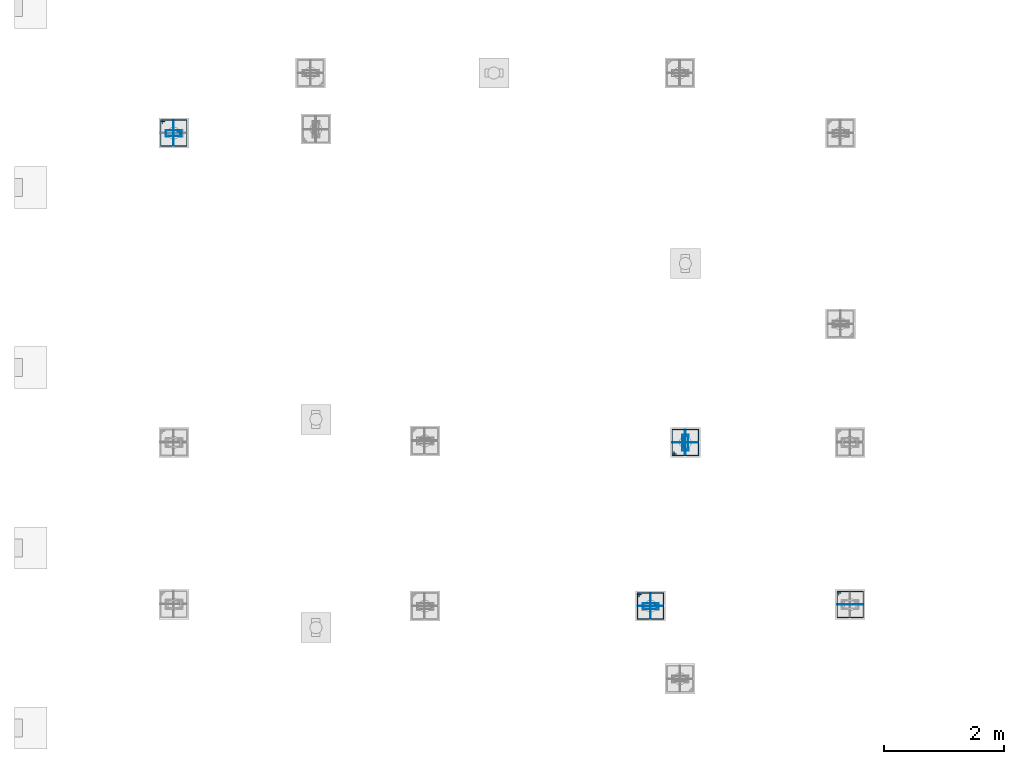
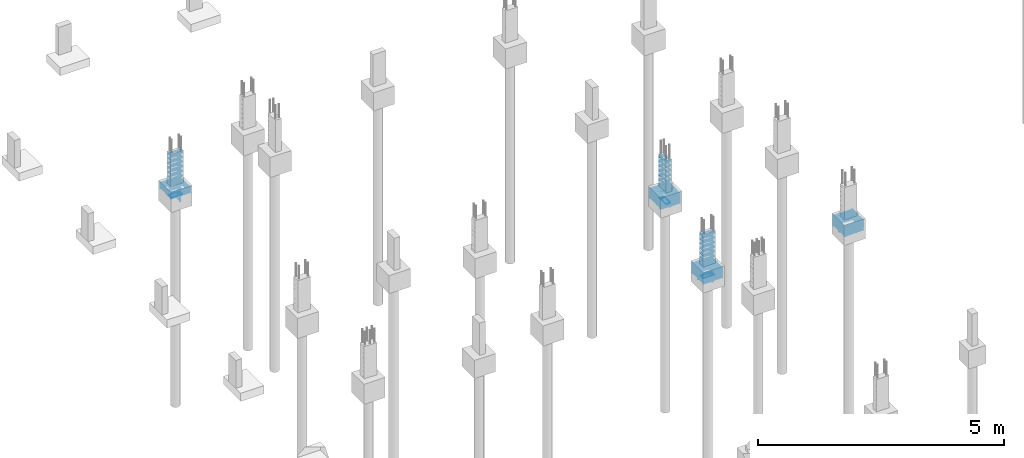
# One storey, part 103 of 119: 54 reinforcing bars.
"""IFC4 building model written with IfcOpenShell, lengths in centimetres."""

from ifc_helpers import new_model, entity, si_unit, derived_unit, frame, origin_with_axes, place, context, project, spatial, source, transform, mapped, element, save


model = new_model("IFC4")

# Units and contexts
model_context = context("Model", 3, precision=1e-05, world=origin_with_axes(), identifier="Body")
ifc_project = project(units=[si_unit("LENGTHUNIT", "METRE", prefix="CENTI"), si_unit("VOLUMEUNIT", "CUBIC_METRE"), si_unit("AREAUNIT", "SQUARE_METRE"), si_unit("POWERUNIT", "WATT"), si_unit("LUMINOUSFLUXUNIT", "LUMEN"), si_unit("ELECTRICCURRENTUNIT", "AMPERE"), si_unit("PRESSUREUNIT", "PASCAL", prefix="KILO"), si_unit("MASSUNIT", "GRAM", prefix="KILO"), si_unit("PLANEANGLEUNIT", "RADIAN"), derived_unit("VOLUMETRICFLOWRATEUNIT", [(si_unit("LENGTHUNIT", "METRE"), 3), (si_unit("TIMEUNIT", "SECOND"), -1)])], contexts=[model_context])

# Site, building, storey
site_placement = place(None, frame((-4000.0, 0.0, 0.0), z_axis=(0.0, 0.0, 1.0), x_axis=(1.0, 0.0, 0.0)))
site = spatial("IfcSite", under=ifc_project, at=site_placement, Name="PADRÃO")
building_placement = place(site_placement, frame((0.0, 0.0, -14.0)))
building = spatial("IfcBuilding", under=site, at=building_placement, Name="CRECHE PRÉ-ESCOLA TIPO 2")
storey_placement = place(building_placement, origin_with_axes())
storey = spatial("IfcBuildingStorey", under=building, at=storey_placement, Name="FUNDAÇÃO", CompositionType="ELEMENT", Elevation=-14.0)

# Reinforcing bars
shared_shape_1 = source(origin_with_axes(), model_context, "Body", "AdvancedSweptSolid", [
    entity("IfcSweptDiskSolid", entity("IfcCompositeCurve", [entity("IfcCompositeCurveSegment", "CONTINUOUS", True, entity("IfcPolyline", [entity("IfcCartesianPoint", [1374.085, 3215.445, 0.0]), entity("IfcCartesianPoint", [1374.085, 3221.705, 0.0])])), entity("IfcCompositeCurveSegment", "CONTINUOUS", True, entity("IfcPolyline", [entity("IfcCartesianPoint", [1374.085, 3221.705, 0.0]), entity("IfcCartesianPoint", [1371.565, 3221.705, 0.0])])), entity("IfcCompositeCurveSegment", "CONTINUOUS", True, entity("IfcPolyline", [entity("IfcCartesianPoint", [1371.565, 3221.705, 0.0]), entity("IfcCartesianPoint", [1371.565, 3178.335, 0.0])])), entity("IfcCompositeCurveSegment", "CONTINUOUS", True, entity("IfcPolyline", [entity("IfcCartesianPoint", [1371.565, 3178.335, 0.0]), entity("IfcCartesianPoint", [1414.935, 3178.335, 0.63])])), entity("IfcCompositeCurveSegment", "CONTINUOUS", True, entity("IfcPolyline", [entity("IfcCartesianPoint", [1414.935, 3178.335, 0.63]), entity("IfcCartesianPoint", [1414.935, 3221.705, 0.63])])), entity("IfcCompositeCurveSegment", "CONTINUOUS", True, entity("IfcPolyline", [entity("IfcCartesianPoint", [1414.935, 3221.705, 0.63]), entity("IfcCartesianPoint", [1371.565, 3221.705, 0.63])])), entity("IfcCompositeCurveSegment", "CONTINUOUS", True, entity("IfcPolyline", [entity("IfcCartesianPoint", [1371.565, 3221.705, 0.63]), entity("IfcCartesianPoint", [1371.565, 3219.185, 0.63])])), entity("IfcCompositeCurveSegment", "CONTINUOUS", True, entity("IfcPolyline", [entity("IfcCartesianPoint", [1371.565, 3219.185, 0.63]), entity("IfcCartesianPoint", [1377.825, 3219.185, 0.63])]))], False), 0.315),
])
for number, where, z_axis, x_axis, name in (
    (1, (0.0, 0.0, -86.575), (0.0, 0.0, 1.0), (1.0, 0.0, 0.0), "P51 - Blocos (estribos)"),
    (2, (0.0, 0.0, -92.225), (0.0, 0.0, 1.0), (1.0, 0.0, 0.0), "P51 - Blocos (estribos)"),
    (3, (0.0, 0.0, -97.875), (0.0, 0.0, 1.0), (1.0, 0.0, 0.0), "P51 - Blocos (estribos)"),
    (4, (0.0, 0.0, -103.525), (0.0, 0.0, 1.0), (1.0, 0.0, 0.0), "P51 - Blocos (estribos)"),
    (5, (0.0, 0.0, -109.175), (0.0, 0.0, 1.0), (1.0, 0.0, 0.0), "P51 - Blocos (estribos)"),
):
    element("IfcReinforcingBar", number, at=place(storey_placement, frame(where, z_axis=z_axis, x_axis=x_axis)), inside=storey, Name=name, BarLength=0.0, CrossSectionArea=3.1172453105e-05, NominalDiameter=0.63, PredefinedType="MAIN", context=model_context, shape_type="MappedRepresentation", body=[
        mapped(shared_shape_1, transform((0.0, 0.0, 0.0), scale=1.0)),
    ])
shared_shape_2 = source(origin_with_axes(), model_context, "Body", "AdvancedSweptSolid", [
    entity("IfcSweptDiskSolid", entity("IfcCompositeCurve", [entity("IfcCompositeCurveSegment", "CONTINUOUS", True, entity("IfcPolyline", [entity("IfcCartesianPoint", [-15.12, -12.0, 0.0]), entity("IfcCartesianPoint", [-21.12, -12.0, 0.0])])), entity("IfcCompositeCurveSegment", "CONTINUOUS", True, entity("IfcPolyline", [entity("IfcCartesianPoint", [-21.12, -12.0, 0.0]), entity("IfcCartesianPoint", [-21.12, -14.0, 0.0])])), entity("IfcCompositeCurveSegment", "CONTINUOUS", True, entity("IfcPolyline", [entity("IfcCartesianPoint", [-21.12, -14.0, 0.0]), entity("IfcCartesianPoint", [21.12, -14.0, 0.0])])), entity("IfcCompositeCurveSegment", "CONTINUOUS", True, entity("IfcPolyline", [entity("IfcCartesianPoint", [21.12, -14.0, 0.0]), entity("IfcCartesianPoint", [21.12, 14.0, 0.5])])), entity("IfcCompositeCurveSegment", "CONTINUOUS", True, entity("IfcPolyline", [entity("IfcCartesianPoint", [21.12, 14.0, 0.5]), entity("IfcCartesianPoint", [-21.12, 14.0, 0.5])])), entity("IfcCompositeCurveSegment", "CONTINUOUS", True, entity("IfcPolyline", [entity("IfcCartesianPoint", [-21.12, 14.0, 0.5]), entity("IfcCartesianPoint", [-21.12, -14.0, 0.5])])), entity("IfcCompositeCurveSegment", "CONTINUOUS", True, entity("IfcPolyline", [entity("IfcCartesianPoint", [-21.12, -14.0, 0.5]), entity("IfcCartesianPoint", [-19.12, -14.0, 0.5])])), entity("IfcCompositeCurveSegment", "CONTINUOUS", True, entity("IfcPolyline", [entity("IfcCartesianPoint", [-19.12, -14.0, 0.5]), entity("IfcCartesianPoint", [-19.12, -8.0, 0.5])]))], False), 0.25),
])
reinforcing_bar_1_placement = place(storey_placement, frame((1393.25, 3200.02, -97.75), z_axis=(0.0, 1.0, 0.0), x_axis=(1.0, 0.0, 0.0)))
element("IfcReinforcingBar", 6, at=reinforcing_bar_1_placement, inside=storey, Name="P51 - Blocos (estribos)", BarLength=0.0, CrossSectionArea=1.9634954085e-05, NominalDiameter=0.5, PredefinedType="MAIN", context=model_context, shape_type="MappedRepresentation", body=[
    mapped(shared_shape_2, transform((0.0, 0.0, 0.0), scale=1.0)),
])
shared_shape_3 = source(origin_with_axes(), model_context, "Body", "AdvancedSweptSolid", [
    entity("IfcSweptDiskSolid", entity("IfcCompositeCurve", [entity("IfcCompositeCurveSegment", "CONTINUOUS", True, entity("IfcPolyline", [entity("IfcCartesianPoint", [4.25, 21.75, 0.0]), entity("IfcCartesianPoint", [4.25, 27.75, 0.0])])), entity("IfcCompositeCurveSegment", "CONTINUOUS", True, entity("IfcPolyline", [entity("IfcCartesianPoint", [4.25, 27.75, 0.0]), entity("IfcCartesianPoint", [2.25, 27.75, 0.0])])), entity("IfcCompositeCurveSegment", "CONTINUOUS", True, entity("IfcPolyline", [entity("IfcCartesianPoint", [2.25, 27.75, 0.0]), entity("IfcCartesianPoint", [2.25, 2.25, 0.0])])), entity("IfcCompositeCurveSegment", "CONTINUOUS", True, entity("IfcPolyline", [entity("IfcCartesianPoint", [2.25, 2.25, 0.0]), entity("IfcCartesianPoint", [11.75, 2.25, 0.0])])), entity("IfcCompositeCurveSegment", "CONTINUOUS", True, entity("IfcPolyline", [entity("IfcCartesianPoint", [11.75, 2.25, 0.0]), entity("IfcCartesianPoint", [11.75, 27.75, -0.5])])), entity("IfcCompositeCurveSegment", "CONTINUOUS", True, entity("IfcPolyline", [entity("IfcCartesianPoint", [11.75, 27.75, -0.5]), entity("IfcCartesianPoint", [2.25, 27.75, -0.5])])), entity("IfcCompositeCurveSegment", "CONTINUOUS", True, entity("IfcPolyline", [entity("IfcCartesianPoint", [2.25, 27.75, -0.5]), entity("IfcCartesianPoint", [2.25, 25.75, -0.5])])), entity("IfcCompositeCurveSegment", "CONTINUOUS", True, entity("IfcPolyline", [entity("IfcCartesianPoint", [2.25, 25.75, -0.5]), entity("IfcCartesianPoint", [8.25, 25.75, -0.5])]))], False), 0.25),
])
for number, where, z_axis, x_axis, name in (
    (7, (252.0, 3992.0, -5.75), (0.0, 0.0, 1.0), (0.0, -1.0, 0.0), "P23 - Estribo"),
    (8, (252.0, 3992.0, -17.25), (0.0, 0.0, 1.0), (0.0, -1.0, 0.0), "P23 - Estribo"),
    (9, (252.0, 3992.0, -40.25), (0.0, 0.0, 1.0), (0.0, -1.0, 0.0), "P23 - Estribo"),
    (10, (252.0, 3992.0, -51.75), (0.0, 0.0, 1.0), (0.0, -1.0, 0.0), "P23 - Estribo"),
    (11, (252.0, 3992.0, -63.25), (0.0, 0.0, 1.0), (0.0, -1.0, 0.0), "P23 - Estribo"),
    (12, (252.0, 3992.0, -86.25), (0.0, 0.0, 1.0), (0.0, -1.0, 0.0), "P23 - Estribo"),
    (13, (252.0, 3992.0, -97.75), (0.0, 0.0, 1.0), (0.0, -1.0, 0.0), "P23 - Estribo"),
    (14, (252.0, 3992.0, -109.25), (0.0, 0.0, 1.0), (0.0, -1.0, 0.0), "P23 - Estribo"),
    (15, (252.0, 3992.0, -74.75), (0.0, 0.0, 1.0), (0.0, -1.0, 0.0), "P23 - Estribo"),
    (16, (252.0, 3992.0, -28.75), (0.0, 0.0, 1.0), (0.0, -1.0, 0.0), "P23 - Estribo"),
):
    element("IfcReinforcingBar", number, at=place(storey_placement, frame(where, z_axis=z_axis, x_axis=x_axis)), inside=storey, Name=name, BarLength=0.0, CrossSectionArea=1.9634954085e-05, NominalDiameter=0.5, PredefinedType="MAIN", context=model_context, shape_type="MappedRepresentation", body=[
        mapped(shared_shape_3, transform((0.0, 0.0, 0.0), scale=1.0)),
    ])
shared_shape_4 = source(origin_with_axes(), model_context, "Body", "AdvancedSweptSolid", [
    entity("IfcSweptDiskSolid", entity("IfcCompositeCurve", [entity("IfcCompositeCurveSegment", "CONTINUOUS", True, entity("IfcPolyline", [entity("IfcCartesianPoint", [247.835, 4000.425, 0.0]), entity("IfcCartesianPoint", [247.835, 4006.685, 0.0])])), entity("IfcCompositeCurveSegment", "CONTINUOUS", True, entity("IfcPolyline", [entity("IfcCartesianPoint", [247.835, 4006.685, 0.0]), entity("IfcCartesianPoint", [245.315, 4006.685, 0.0])])), entity("IfcCompositeCurveSegment", "CONTINUOUS", True, entity("IfcPolyline", [entity("IfcCartesianPoint", [245.315, 4006.685, 0.0]), entity("IfcCartesianPoint", [245.315, 3963.315, 0.0])])), entity("IfcCompositeCurveSegment", "CONTINUOUS", True, entity("IfcPolyline", [entity("IfcCartesianPoint", [245.315, 3963.315, 0.0]), entity("IfcCartesianPoint", [288.685, 3963.315, 0.63])])), entity("IfcCompositeCurveSegment", "CONTINUOUS", True, entity("IfcPolyline", [entity("IfcCartesianPoint", [288.685, 3963.315, 0.63]), entity("IfcCartesianPoint", [288.685, 4006.685, 0.63])])), entity("IfcCompositeCurveSegment", "CONTINUOUS", True, entity("IfcPolyline", [entity("IfcCartesianPoint", [288.685, 4006.685, 0.63]), entity("IfcCartesianPoint", [245.315, 4006.685, 0.63])])), entity("IfcCompositeCurveSegment", "CONTINUOUS", True, entity("IfcPolyline", [entity("IfcCartesianPoint", [245.315, 4006.685, 0.63]), entity("IfcCartesianPoint", [245.315, 4004.165, 0.63])])), entity("IfcCompositeCurveSegment", "CONTINUOUS", True, entity("IfcPolyline", [entity("IfcCartesianPoint", [245.315, 4004.165, 0.63]), entity("IfcCartesianPoint", [251.575, 4004.165, 0.63])]))], False), 0.315),
])
for number, where, z_axis, x_axis, name in (
    (17, (0.0, 0.0, -97.875), (0.0, 0.0, 1.0), (1.0, 0.0, 0.0), "P23 - Blocos (estribos)"),
    (18, (0.0, 0.0, -86.575), (0.0, 0.0, 1.0), (1.0, 0.0, 0.0), "P23 - Blocos (estribos)"),
    (19, (0.0, 0.0, -92.225), (0.0, 0.0, 1.0), (1.0, 0.0, 0.0), "P23 - Blocos (estribos)"),
):
    element("IfcReinforcingBar", number, at=place(storey_placement, frame(where, z_axis=z_axis, x_axis=x_axis)), inside=storey, Name=name, BarLength=0.0, CrossSectionArea=3.1172453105e-05, NominalDiameter=0.63, PredefinedType="MAIN", context=model_context, shape_type="MappedRepresentation", body=[
        mapped(shared_shape_4, transform((0.0, 0.0, 0.0), scale=1.0)),
    ])
shared_shape_5 = source(origin_with_axes(), model_context, "Body", "AdvancedSweptSolid", [
    entity("IfcSweptDiskSolid", entity("IfcCompositeCurve", [entity("IfcCompositeCurveSegment", "CONTINUOUS", True, entity("IfcPolyline", [entity("IfcCartesianPoint", [-15.12, -12.0, 0.0]), entity("IfcCartesianPoint", [-21.12, -12.0, 0.0])])), entity("IfcCompositeCurveSegment", "CONTINUOUS", True, entity("IfcPolyline", [entity("IfcCartesianPoint", [-21.12, -12.0, 0.0]), entity("IfcCartesianPoint", [-21.12, -14.0, 0.0])])), entity("IfcCompositeCurveSegment", "CONTINUOUS", True, entity("IfcPolyline", [entity("IfcCartesianPoint", [-21.12, -14.0, 0.0]), entity("IfcCartesianPoint", [21.12, -14.0, 0.0])])), entity("IfcCompositeCurveSegment", "CONTINUOUS", True, entity("IfcPolyline", [entity("IfcCartesianPoint", [21.12, -14.0, 0.0]), entity("IfcCartesianPoint", [21.12, 14.0, 0.5])])), entity("IfcCompositeCurveSegment", "CONTINUOUS", True, entity("IfcPolyline", [entity("IfcCartesianPoint", [21.12, 14.0, 0.5]), entity("IfcCartesianPoint", [-21.12, 14.0, 0.5])])), entity("IfcCompositeCurveSegment", "CONTINUOUS", True, entity("IfcPolyline", [entity("IfcCartesianPoint", [-21.12, 14.0, 0.5]), entity("IfcCartesianPoint", [-21.12, -14.0, 0.5])])), entity("IfcCompositeCurveSegment", "CONTINUOUS", True, entity("IfcPolyline", [entity("IfcCartesianPoint", [-21.12, -14.0, 0.5]), entity("IfcCartesianPoint", [-19.12, -14.0, 0.5])])), entity("IfcCompositeCurveSegment", "CONTINUOUS", True, entity("IfcPolyline", [entity("IfcCartesianPoint", [-19.12, -14.0, 0.5]), entity("IfcCartesianPoint", [-19.12, -8.0, 0.5])]))], False), 0.25),
])
reinforcing_bar_2_placement = place(storey_placement, frame((267.0, 3985.0, -97.75), z_axis=(-1.0, 0.0, 0.0), x_axis=(0.0, 1.0, 0.0)))
element("IfcReinforcingBar", 20, at=reinforcing_bar_2_placement, inside=storey, Name="P23 - Blocos (estribos)", BarLength=0.0, CrossSectionArea=1.9634954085e-05, NominalDiameter=0.5, PredefinedType="MAIN", context=model_context, shape_type="MappedRepresentation", body=[
    mapped(shared_shape_5, transform((0.0, 0.0, 0.0), scale=1.0)),
])
shared_shape_6 = source(origin_with_axes(), model_context, "Body", "AdvancedSweptSolid", [
    entity("IfcSweptDiskSolid", entity("IfcCompositeCurve", [entity("IfcCompositeCurveSegment", "CONTINUOUS", True, entity("IfcPolyline", [entity("IfcCartesianPoint", [4.25, 21.75, 0.0]), entity("IfcCartesianPoint", [4.25, 27.75, 0.0])])), entity("IfcCompositeCurveSegment", "CONTINUOUS", True, entity("IfcPolyline", [entity("IfcCartesianPoint", [4.25, 27.75, 0.0]), entity("IfcCartesianPoint", [2.25, 27.75, 0.0])])), entity("IfcCompositeCurveSegment", "CONTINUOUS", True, entity("IfcPolyline", [entity("IfcCartesianPoint", [2.25, 27.75, 0.0]), entity("IfcCartesianPoint", [2.25, 2.25, 0.0])])), entity("IfcCompositeCurveSegment", "CONTINUOUS", True, entity("IfcPolyline", [entity("IfcCartesianPoint", [2.25, 2.25, 0.0]), entity("IfcCartesianPoint", [11.75, 2.25, 0.0])])), entity("IfcCompositeCurveSegment", "CONTINUOUS", True, entity("IfcPolyline", [entity("IfcCartesianPoint", [11.75, 2.25, 0.0]), entity("IfcCartesianPoint", [11.75, 27.75, -0.5])])), entity("IfcCompositeCurveSegment", "CONTINUOUS", True, entity("IfcPolyline", [entity("IfcCartesianPoint", [11.75, 27.75, -0.5]), entity("IfcCartesianPoint", [2.25, 27.75, -0.5])])), entity("IfcCompositeCurveSegment", "CONTINUOUS", True, entity("IfcPolyline", [entity("IfcCartesianPoint", [2.25, 27.75, -0.5]), entity("IfcCartesianPoint", [2.25, 25.75, -0.5])])), entity("IfcCompositeCurveSegment", "CONTINUOUS", True, entity("IfcPolyline", [entity("IfcCartesianPoint", [2.25, 25.75, -0.5]), entity("IfcCartesianPoint", [8.25, 25.75, -0.5])]))], False), 0.25),
])
for number, where, z_axis, x_axis, name in (
    (21, (1046.0, 3204.49, -40.25), (0.0, 0.0, 1.0), (0.0, -1.0, 0.0), "P50 - Estribo"),
    (22, (1046.0, 3204.49, -51.75), (0.0, 0.0, 1.0), (0.0, -1.0, 0.0), "P50 - Estribo"),
    (23, (1046.0, 3204.49, -109.25), (0.0, 0.0, 1.0), (0.0, -1.0, 0.0), "P50 - Estribo"),
    (24, (1046.0, 3204.49, -86.25), (0.0, 0.0, 1.0), (0.0, -1.0, 0.0), "P50 - Estribo"),
    (25, (1046.0, 3204.49, -17.25), (0.0, 0.0, 1.0), (0.0, -1.0, 0.0), "P50 - Estribo"),
    (26, (1046.0, 3204.49, -5.75), (0.0, 0.0, 1.0), (0.0, -1.0, 0.0), "P50 - Estribo"),
    (27, (1046.0, 3204.49, -63.25), (0.0, 0.0, 1.0), (0.0, -1.0, 0.0), "P50 - Estribo"),
    (28, (1046.0, 3204.49, -28.75), (0.0, 0.0, 1.0), (0.0, -1.0, 0.0), "P50 - Estribo"),
    (29, (1046.0, 3204.49, -97.75), (0.0, 0.0, 1.0), (0.0, -1.0, 0.0), "P50 - Estribo"),
    (30, (1046.0, 3204.49, -74.75), (0.0, 0.0, 1.0), (0.0, -1.0, 0.0), "P50 - Estribo"),
):
    element("IfcReinforcingBar", number, at=place(storey_placement, frame(where, z_axis=z_axis, x_axis=x_axis)), inside=storey, Name=name, BarLength=0.0, CrossSectionArea=1.9634954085e-05, NominalDiameter=0.5, PredefinedType="MAIN", context=model_context, shape_type="MappedRepresentation", body=[
        mapped(shared_shape_6, transform((0.0, 0.0, 0.0), scale=1.0)),
    ])
shared_shape_7 = source(origin_with_axes(), model_context, "Body", "AdvancedSweptSolid", [
    entity("IfcSweptDiskSolid", entity("IfcCompositeCurve", [entity("IfcCompositeCurveSegment", "CONTINUOUS", True, entity("IfcPolyline", [entity("IfcCartesianPoint", [1041.835, 3212.915, 0.0]), entity("IfcCartesianPoint", [1041.835, 3219.175, 0.0])])), entity("IfcCompositeCurveSegment", "CONTINUOUS", True, entity("IfcPolyline", [entity("IfcCartesianPoint", [1041.835, 3219.175, 0.0]), entity("IfcCartesianPoint", [1039.315, 3219.175, 0.0])])), entity("IfcCompositeCurveSegment", "CONTINUOUS", True, entity("IfcPolyline", [entity("IfcCartesianPoint", [1039.315, 3219.175, 0.0]), entity("IfcCartesianPoint", [1039.315, 3175.805, 0.0])])), entity("IfcCompositeCurveSegment", "CONTINUOUS", True, entity("IfcPolyline", [entity("IfcCartesianPoint", [1039.315, 3175.805, 0.0]), entity("IfcCartesianPoint", [1082.685, 3175.805, 0.63])])), entity("IfcCompositeCurveSegment", "CONTINUOUS", True, entity("IfcPolyline", [entity("IfcCartesianPoint", [1082.685, 3175.805, 0.63]), entity("IfcCartesianPoint", [1082.685, 3219.175, 0.63])])), entity("IfcCompositeCurveSegment", "CONTINUOUS", True, entity("IfcPolyline", [entity("IfcCartesianPoint", [1082.685, 3219.175, 0.63]), entity("IfcCartesianPoint", [1039.315, 3219.175, 0.63])])), entity("IfcCompositeCurveSegment", "CONTINUOUS", True, entity("IfcPolyline", [entity("IfcCartesianPoint", [1039.315, 3219.175, 0.63]), entity("IfcCartesianPoint", [1039.315, 3216.655, 0.63])])), entity("IfcCompositeCurveSegment", "CONTINUOUS", True, entity("IfcPolyline", [entity("IfcCartesianPoint", [1039.315, 3216.655, 0.63]), entity("IfcCartesianPoint", [1045.575, 3216.655, 0.63])]))], False), 0.315),
])
for number, where, z_axis, x_axis, name in (
    (31, (0.0, 0.0, -86.575), (0.0, 0.0, 1.0), (1.0, 0.0, 0.0), "P50 - Blocos (estribos)"),
    (32, (0.0, 0.0, -92.225), (0.0, 0.0, 1.0), (1.0, 0.0, 0.0), "P50 - Blocos (estribos)"),
    (33, (0.0, 0.0, -109.175), (0.0, 0.0, 1.0), (1.0, 0.0, 0.0), "P50 - Blocos (estribos)"),
    (34, (0.0, 0.0, -103.525), (0.0, 0.0, 1.0), (1.0, 0.0, 0.0), "P50 - Blocos (estribos)"),
    (35, (0.0, 0.0, -97.875), (0.0, 0.0, 1.0), (1.0, 0.0, 0.0), "P50 - Blocos (estribos)"),
):
    element("IfcReinforcingBar", number, at=place(storey_placement, frame(where, z_axis=z_axis, x_axis=x_axis)), inside=storey, Name=name, BarLength=0.0, CrossSectionArea=3.1172453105e-05, NominalDiameter=0.63, PredefinedType="MAIN", context=model_context, shape_type="MappedRepresentation", body=[
        mapped(shared_shape_7, transform((0.0, 0.0, 0.0), scale=1.0)),
    ])
shared_shape_8 = source(origin_with_axes(), model_context, "Body", "AdvancedSweptSolid", [
    entity("IfcSweptDiskSolid", entity("IfcCompositeCurve", [entity("IfcCompositeCurveSegment", "CONTINUOUS", True, entity("IfcPolyline", [entity("IfcCartesianPoint", [-15.12, -12.0, 0.0]), entity("IfcCartesianPoint", [-21.12, -12.0, 0.0])])), entity("IfcCompositeCurveSegment", "CONTINUOUS", True, entity("IfcPolyline", [entity("IfcCartesianPoint", [-21.12, -12.0, 0.0]), entity("IfcCartesianPoint", [-21.12, -14.0, 0.0])])), entity("IfcCompositeCurveSegment", "CONTINUOUS", True, entity("IfcPolyline", [entity("IfcCartesianPoint", [-21.12, -14.0, 0.0]), entity("IfcCartesianPoint", [21.12, -14.0, 0.0])])), entity("IfcCompositeCurveSegment", "CONTINUOUS", True, entity("IfcPolyline", [entity("IfcCartesianPoint", [21.12, -14.0, 0.0]), entity("IfcCartesianPoint", [21.12, 14.0, 0.5])])), entity("IfcCompositeCurveSegment", "CONTINUOUS", True, entity("IfcPolyline", [entity("IfcCartesianPoint", [21.12, 14.0, 0.5]), entity("IfcCartesianPoint", [-21.12, 14.0, 0.5])])), entity("IfcCompositeCurveSegment", "CONTINUOUS", True, entity("IfcPolyline", [entity("IfcCartesianPoint", [-21.12, 14.0, 0.5]), entity("IfcCartesianPoint", [-21.12, -14.0, 0.5])])), entity("IfcCompositeCurveSegment", "CONTINUOUS", True, entity("IfcPolyline", [entity("IfcCartesianPoint", [-21.12, -14.0, 0.5]), entity("IfcCartesianPoint", [-19.12, -14.0, 0.5])])), entity("IfcCompositeCurveSegment", "CONTINUOUS", True, entity("IfcPolyline", [entity("IfcCartesianPoint", [-19.12, -14.0, 0.5]), entity("IfcCartesianPoint", [-19.12, -8.0, 0.5])]))], False), 0.25),
])
reinforcing_bar_3_placement = place(storey_placement, frame((1061.0, 3197.49, -97.75), z_axis=(0.0, 1.0, 0.0), x_axis=(1.0, 0.0, 0.0)))
element("IfcReinforcingBar", 36, at=reinforcing_bar_3_placement, inside=storey, Name="P50 - Blocos (estribos)", BarLength=0.0, CrossSectionArea=1.9634954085e-05, NominalDiameter=0.5, PredefinedType="MAIN", context=model_context, shape_type="MappedRepresentation", body=[
    mapped(shared_shape_8, transform((0.0, 0.0, 0.0), scale=1.0)),
])
shared_shape_9 = source(origin_with_axes(), model_context, "Body", "AdvancedSweptSolid", [
    entity("IfcSweptDiskSolid", entity("IfcCompositeCurve", [entity("IfcCompositeCurveSegment", "CONTINUOUS", True, entity("IfcPolyline", [entity("IfcCartesianPoint", [-15.12, -12.0, 0.0]), entity("IfcCartesianPoint", [-21.12, -12.0, 0.0])])), entity("IfcCompositeCurveSegment", "CONTINUOUS", True, entity("IfcPolyline", [entity("IfcCartesianPoint", [-21.12, -12.0, 0.0]), entity("IfcCartesianPoint", [-21.12, -14.0, 0.0])])), entity("IfcCompositeCurveSegment", "CONTINUOUS", True, entity("IfcPolyline", [entity("IfcCartesianPoint", [-21.12, -14.0, 0.0]), entity("IfcCartesianPoint", [21.12, -14.0, 0.0])])), entity("IfcCompositeCurveSegment", "CONTINUOUS", True, entity("IfcPolyline", [entity("IfcCartesianPoint", [21.12, -14.0, 0.0]), entity("IfcCartesianPoint", [21.12, 14.0, 0.5])])), entity("IfcCompositeCurveSegment", "CONTINUOUS", True, entity("IfcPolyline", [entity("IfcCartesianPoint", [21.12, 14.0, 0.5]), entity("IfcCartesianPoint", [-21.12, 14.0, 0.5])])), entity("IfcCompositeCurveSegment", "CONTINUOUS", True, entity("IfcPolyline", [entity("IfcCartesianPoint", [-21.12, 14.0, 0.5]), entity("IfcCartesianPoint", [-21.12, -14.0, 0.5])])), entity("IfcCompositeCurveSegment", "CONTINUOUS", True, entity("IfcPolyline", [entity("IfcCartesianPoint", [-21.12, -14.0, 0.5]), entity("IfcCartesianPoint", [-19.12, -14.0, 0.5])])), entity("IfcCompositeCurveSegment", "CONTINUOUS", True, entity("IfcPolyline", [entity("IfcCartesianPoint", [-19.12, -14.0, 0.5]), entity("IfcCartesianPoint", [-19.12, -8.0, 0.5])]))], False), 0.25),
])
reinforcing_bar_4_placement = place(storey_placement, frame((1061.0, 3197.49, -97.75), z_axis=(-1.0, 0.0, 0.0), x_axis=(0.0, 1.0, 0.0)))
element("IfcReinforcingBar", 37, at=reinforcing_bar_4_placement, inside=storey, Name="P50 - Blocos (estribos)", BarLength=0.0, CrossSectionArea=1.9634954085e-05, NominalDiameter=0.5, PredefinedType="MAIN", context=model_context, shape_type="MappedRepresentation", body=[
    mapped(shared_shape_9, transform((0.0, 0.0, 0.0), scale=1.0)),
])
shared_shape_10 = source(origin_with_axes(), model_context, "Body", "AdvancedSweptSolid", [
    entity("IfcSweptDiskSolid", entity("IfcCompositeCurve", [entity("IfcCompositeCurveSegment", "CONTINUOUS", True, entity("IfcPolyline", [entity("IfcCartesianPoint", [4.25, 21.75, 0.0]), entity("IfcCartesianPoint", [4.25, 27.75, 0.0])])), entity("IfcCompositeCurveSegment", "CONTINUOUS", True, entity("IfcPolyline", [entity("IfcCartesianPoint", [4.25, 27.75, 0.0]), entity("IfcCartesianPoint", [2.25, 27.75, 0.0])])), entity("IfcCompositeCurveSegment", "CONTINUOUS", True, entity("IfcPolyline", [entity("IfcCartesianPoint", [2.25, 27.75, 0.0]), entity("IfcCartesianPoint", [2.25, 2.25, 0.0])])), entity("IfcCompositeCurveSegment", "CONTINUOUS", True, entity("IfcPolyline", [entity("IfcCartesianPoint", [2.25, 2.25, 0.0]), entity("IfcCartesianPoint", [11.75, 2.25, 0.0])])), entity("IfcCompositeCurveSegment", "CONTINUOUS", True, entity("IfcPolyline", [entity("IfcCartesianPoint", [11.75, 2.25, 0.0]), entity("IfcCartesianPoint", [11.75, 27.75, -0.5])])), entity("IfcCompositeCurveSegment", "CONTINUOUS", True, entity("IfcPolyline", [entity("IfcCartesianPoint", [11.75, 27.75, -0.5]), entity("IfcCartesianPoint", [2.25, 27.75, -0.5])])), entity("IfcCompositeCurveSegment", "CONTINUOUS", True, entity("IfcPolyline", [entity("IfcCartesianPoint", [2.25, 27.75, -0.5]), entity("IfcCartesianPoint", [2.25, 25.75, -0.5])])), entity("IfcCompositeCurveSegment", "CONTINUOUS", True, entity("IfcPolyline", [entity("IfcCartesianPoint", [2.25, 25.75, -0.5]), entity("IfcCartesianPoint", [8.25, 25.75, -0.5])]))], False), 0.25),
])
for number, where, z_axis, x_axis, name in (
    (38, (1111.72, 3455.0, -86.25), (0.0, 0.0, 1.0), (1.0, 0.0, 0.0), "P40 - Estribo"),
    (39, (1111.72, 3455.0, -63.25), (0.0, 0.0, 1.0), (1.0, 0.0, 0.0), "P40 - Estribo"),
    (40, (1111.72, 3455.0, -5.75), (0.0, 0.0, 1.0), (1.0, 0.0, 0.0), "P40 - Estribo"),
    (41, (1111.72, 3455.0, -40.25), (0.0, 0.0, 1.0), (1.0, 0.0, 0.0), "P40 - Estribo"),
    (42, (1111.72, 3455.0, -74.75), (0.0, 0.0, 1.0), (1.0, 0.0, 0.0), "P40 - Estribo"),
    (43, (1111.72, 3455.0, -17.25), (0.0, 0.0, 1.0), (1.0, 0.0, 0.0), "P40 - Estribo"),
    (44, (1111.72, 3455.0, -28.75), (0.0, 0.0, 1.0), (1.0, 0.0, 0.0), "P40 - Estribo"),
    (45, (1111.72, 3455.0, -51.75), (0.0, 0.0, 1.0), (1.0, 0.0, 0.0), "P40 - Estribo"),
    (46, (1111.72, 3455.0, -109.25), (0.0, 0.0, 1.0), (1.0, 0.0, 0.0), "P40 - Estribo"),
    (47, (1111.72, 3455.0, -97.75), (0.0, 0.0, 1.0), (1.0, 0.0, 0.0), "P40 - Estribo"),
):
    element("IfcReinforcingBar", number, at=place(storey_placement, frame(where, z_axis=z_axis, x_axis=x_axis)), inside=storey, Name=name, BarLength=0.0, CrossSectionArea=1.9634954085e-05, NominalDiameter=0.5, PredefinedType="MAIN", context=model_context, shape_type="MappedRepresentation", body=[
        mapped(shared_shape_10, transform((0.0, 0.0, 0.0), scale=1.0)),
    ])
shared_shape_11 = source(origin_with_axes(), model_context, "Body", "AdvancedSweptSolid", [
    entity("IfcSweptDiskSolid", entity("IfcCompositeCurve", [entity("IfcCompositeCurveSegment", "CONTINUOUS", True, entity("IfcPolyline", [entity("IfcCartesianPoint", [1103.295, 3450.835, 0.0]), entity("IfcCartesianPoint", [1097.035, 3450.835, 0.0])])), entity("IfcCompositeCurveSegment", "CONTINUOUS", True, entity("IfcPolyline", [entity("IfcCartesianPoint", [1097.035, 3450.835, 0.0]), entity("IfcCartesianPoint", [1097.035, 3448.315, 0.0])])), entity("IfcCompositeCurveSegment", "CONTINUOUS", True, entity("IfcPolyline", [entity("IfcCartesianPoint", [1097.035, 3448.315, 0.0]), entity("IfcCartesianPoint", [1140.405, 3448.315, 0.0])])), entity("IfcCompositeCurveSegment", "CONTINUOUS", True, entity("IfcPolyline", [entity("IfcCartesianPoint", [1140.405, 3448.315, 0.0]), entity("IfcCartesianPoint", [1140.405, 3491.685, 0.63])])), entity("IfcCompositeCurveSegment", "CONTINUOUS", True, entity("IfcPolyline", [entity("IfcCartesianPoint", [1140.405, 3491.685, 0.63]), entity("IfcCartesianPoint", [1097.035, 3491.685, 0.63])])), entity("IfcCompositeCurveSegment", "CONTINUOUS", True, entity("IfcPolyline", [entity("IfcCartesianPoint", [1097.035, 3491.685, 0.63]), entity("IfcCartesianPoint", [1097.035, 3448.315, 0.63])])), entity("IfcCompositeCurveSegment", "CONTINUOUS", True, entity("IfcPolyline", [entity("IfcCartesianPoint", [1097.035, 3448.315, 0.63]), entity("IfcCartesianPoint", [1099.555, 3448.315, 0.63])])), entity("IfcCompositeCurveSegment", "CONTINUOUS", True, entity("IfcPolyline", [entity("IfcCartesianPoint", [1099.555, 3448.315, 0.63]), entity("IfcCartesianPoint", [1099.555, 3454.575, 0.63])]))], False), 0.315),
])
for number, where, z_axis, x_axis, name in (
    (48, (0.0, 0.0, -97.875), (0.0, 0.0, 1.0), (1.0, 0.0, 0.0), "P40 - Blocos (estribos)"),
    (49, (0.0, 0.0, -103.525), (0.0, 0.0, 1.0), (1.0, 0.0, 0.0), "P40 - Blocos (estribos)"),
    (50, (0.0, 0.0, -109.175), (0.0, 0.0, 1.0), (1.0, 0.0, 0.0), "P40 - Blocos (estribos)"),
    (51, (0.0, 0.0, -92.225), (0.0, 0.0, 1.0), (1.0, 0.0, 0.0), "P40 - Blocos (estribos)"),
    (52, (0.0, 0.0, -86.575), (0.0, 0.0, 1.0), (1.0, 0.0, 0.0), "P40 - Blocos (estribos)"),
):
    element("IfcReinforcingBar", number, at=place(storey_placement, frame(where, z_axis=z_axis, x_axis=x_axis)), inside=storey, Name=name, BarLength=0.0, CrossSectionArea=3.1172453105e-05, NominalDiameter=0.63, PredefinedType="MAIN", context=model_context, shape_type="MappedRepresentation", body=[
        mapped(shared_shape_11, transform((0.0, 0.0, 0.0), scale=1.0)),
    ])
shared_shape_12 = source(origin_with_axes(), model_context, "Body", "AdvancedSweptSolid", [
    entity("IfcSweptDiskSolid", entity("IfcCompositeCurve", [entity("IfcCompositeCurveSegment", "CONTINUOUS", True, entity("IfcPolyline", [entity("IfcCartesianPoint", [-14.795, -11.35, 0.0]), entity("IfcCartesianPoint", [-21.055, -11.35, 0.0])])), entity("IfcCompositeCurveSegment", "CONTINUOUS", True, entity("IfcPolyline", [entity("IfcCartesianPoint", [-21.055, -11.35, 0.0]), entity("IfcCartesianPoint", [-21.055, -13.87, 0.0])])), entity("IfcCompositeCurveSegment", "CONTINUOUS", True, entity("IfcPolyline", [entity("IfcCartesianPoint", [-21.055, -13.87, 0.0]), entity("IfcCartesianPoint", [21.055, -13.87, 0.0])])), entity("IfcCompositeCurveSegment", "CONTINUOUS", True, entity("IfcPolyline", [entity("IfcCartesianPoint", [21.055, -13.87, 0.0]), entity("IfcCartesianPoint", [21.055, 13.87, 0.63])])), entity("IfcCompositeCurveSegment", "CONTINUOUS", True, entity("IfcPolyline", [entity("IfcCartesianPoint", [21.055, 13.87, 0.63]), entity("IfcCartesianPoint", [-21.055, 13.87, 0.63])])), entity("IfcCompositeCurveSegment", "CONTINUOUS", True, entity("IfcPolyline", [entity("IfcCartesianPoint", [-21.055, 13.87, 0.63]), entity("IfcCartesianPoint", [-21.055, -13.87, 0.63])])), entity("IfcCompositeCurveSegment", "CONTINUOUS", True, entity("IfcPolyline", [entity("IfcCartesianPoint", [-21.055, -13.87, 0.63]), entity("IfcCartesianPoint", [-18.535, -13.87, 0.63])])), entity("IfcCompositeCurveSegment", "CONTINUOUS", True, entity("IfcPolyline", [entity("IfcCartesianPoint", [-18.535, -13.87, 0.63]), entity("IfcCartesianPoint", [-18.535, -7.61, 0.63])]))], False), 0.315),
])
reinforcing_bar_5_placement = place(storey_placement, frame((1118.72, 3470.0, -97.815), z_axis=(-1.0, 0.0, 0.0), x_axis=(0.0, 1.0, 0.0)))
element("IfcReinforcingBar", 53, at=reinforcing_bar_5_placement, inside=storey, Name="P40 - Blocos (estribos)", BarLength=0.0, CrossSectionArea=3.1172453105e-05, NominalDiameter=0.63, PredefinedType="MAIN", context=model_context, shape_type="MappedRepresentation", body=[
    mapped(shared_shape_12, transform((0.0, 0.0, 0.0), scale=1.0)),
])
shared_shape_13 = source(origin_with_axes(), model_context, "Body", "AdvancedSweptSolid", [
    entity("IfcSweptDiskSolid", entity("IfcCompositeCurve", [entity("IfcCompositeCurveSegment", "CONTINUOUS", True, entity("IfcPolyline", [entity("IfcCartesianPoint", [-14.795, -11.35, 0.0]), entity("IfcCartesianPoint", [-21.055, -11.35, 0.0])])), entity("IfcCompositeCurveSegment", "CONTINUOUS", True, entity("IfcPolyline", [entity("IfcCartesianPoint", [-21.055, -11.35, 0.0]), entity("IfcCartesianPoint", [-21.055, -13.87, 0.0])])), entity("IfcCompositeCurveSegment", "CONTINUOUS", True, entity("IfcPolyline", [entity("IfcCartesianPoint", [-21.055, -13.87, 0.0]), entity("IfcCartesianPoint", [21.055, -13.87, 0.0])])), entity("IfcCompositeCurveSegment", "CONTINUOUS", True, entity("IfcPolyline", [entity("IfcCartesianPoint", [21.055, -13.87, 0.0]), entity("IfcCartesianPoint", [21.055, 13.87, 0.63])])), entity("IfcCompositeCurveSegment", "CONTINUOUS", True, entity("IfcPolyline", [entity("IfcCartesianPoint", [21.055, 13.87, 0.63]), entity("IfcCartesianPoint", [-21.055, 13.87, 0.63])])), entity("IfcCompositeCurveSegment", "CONTINUOUS", True, entity("IfcPolyline", [entity("IfcCartesianPoint", [-21.055, 13.87, 0.63]), entity("IfcCartesianPoint", [-21.055, -13.87, 0.63])])), entity("IfcCompositeCurveSegment", "CONTINUOUS", True, entity("IfcPolyline", [entity("IfcCartesianPoint", [-21.055, -13.87, 0.63]), entity("IfcCartesianPoint", [-18.535, -13.87, 0.63])])), entity("IfcCompositeCurveSegment", "CONTINUOUS", True, entity("IfcPolyline", [entity("IfcCartesianPoint", [-18.535, -13.87, 0.63]), entity("IfcCartesianPoint", [-18.535, -7.61, 0.63])]))], False), 0.315),
])
reinforcing_bar_6_placement = place(storey_placement, frame((1118.72, 3470.0, -97.815), z_axis=(0.0, -1.0, 0.0), x_axis=(-1.0, 0.0, 0.0)))
element("IfcReinforcingBar", 54, at=reinforcing_bar_6_placement, inside=storey, Name="P40 - Blocos (estribos)", BarLength=0.0, CrossSectionArea=3.1172453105e-05, NominalDiameter=0.63, PredefinedType="MAIN", context=model_context, shape_type="MappedRepresentation", body=[
    mapped(shared_shape_13, transform((0.0, 0.0, 0.0), scale=1.0)),
])

save(model, "model.ifc")
